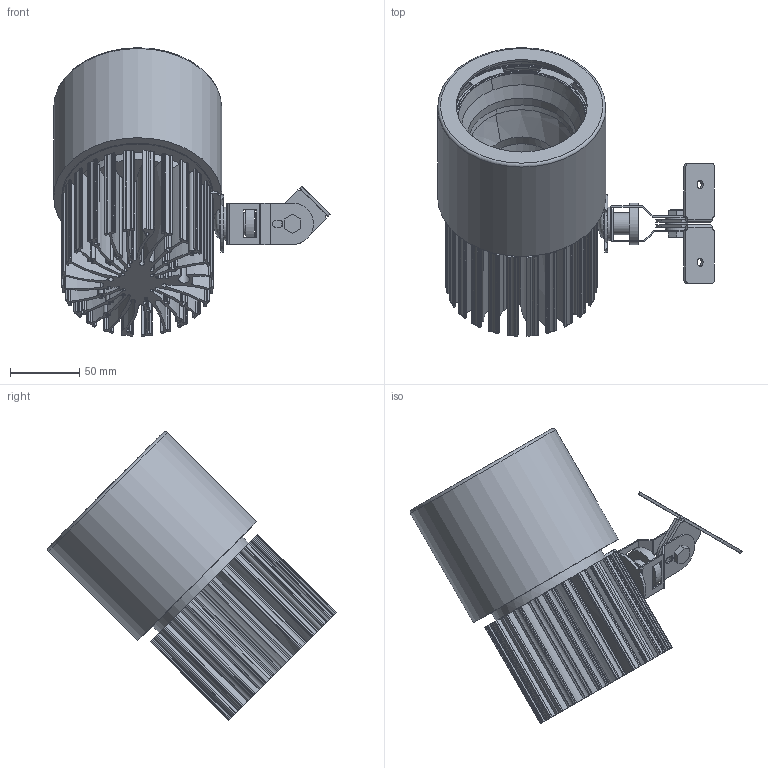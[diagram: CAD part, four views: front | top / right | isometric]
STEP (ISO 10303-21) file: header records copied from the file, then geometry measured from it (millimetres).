
FILE_DESCRIPTION(/* description */ (''),/* implementation_level */ '2;1');
FILE_NAME(/* name */ 'C:/Users/elena/OneDrive/Allegati di posta elettronica/Desktop/Leonardo focus.step',/* time_stamp */ '2020-05-28T13:03:53+02:00',/* author */ (''),/* organization */ (''),/* preprocessor_version */ 'ST-DEVELOPER v18.1',/* originating_system */ 'Autodesk Translation Framework v9.3.0.1241',/* authorisation */ '');
FILE_SCHEMA (('AUTOMOTIVE_DESIGN { 1 0 10303 214 3 1 1 }'));
Length unit declared in the file: millimetre
Products named in the file (1): Pubblico
Bounding box: 199.53 x 208.12 x 208.12 mm (x, y, z)
Volume: 662820.3 mm3; surface area: 364883.1 mm2
Topology: 15 solids, 15 shells, 947 faces, 2872 edges, 1970 vertices
Faces by surface type: cylinder 673, plane 202, bspline 35, cone 21, torus 10, sphere 6
Full cylindrical faces by diameter (mm): 6 x2, 8 x6, 8.2 x6, 8.4 x1, 16 x4, 20.65 x1, 24 x1, 30 x1, 91.2 x2, 94.4 x1, 108.526 x1, 109.85 x1, 121.2 x1
Entity records: 34899 total; most frequent: CARTESIAN_POINT 7581, DIRECTION 6121, ORIENTED_EDGE 5742, EDGE_CURVE 2871, AXIS2_PLACEMENT_3D 2397, VERTEX_POINT 1970, CIRCLE 1479, LINE 1327
